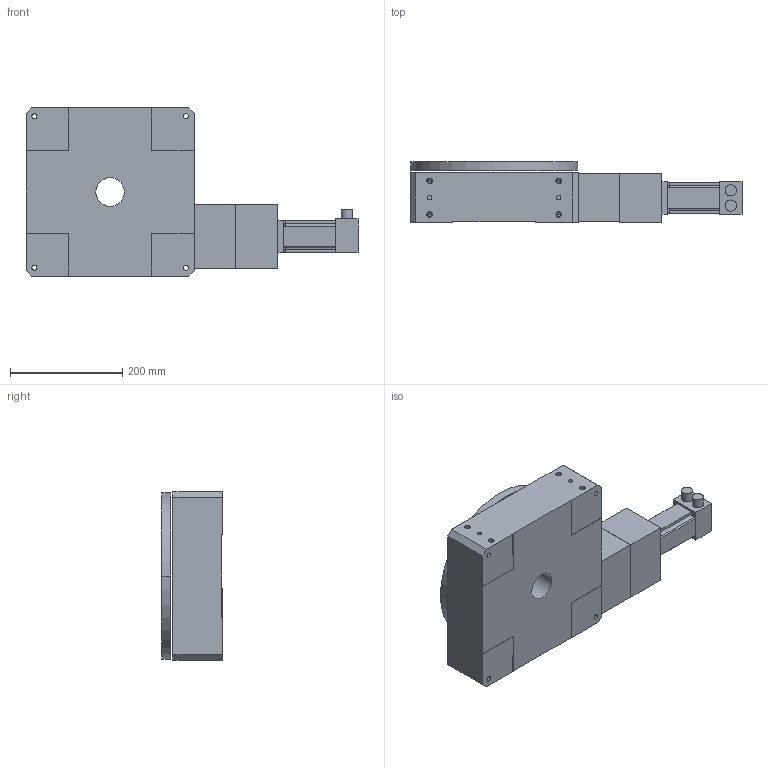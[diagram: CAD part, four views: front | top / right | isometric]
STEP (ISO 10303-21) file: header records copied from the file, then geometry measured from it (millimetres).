
FILE_DESCRIPTION((''),'2;1');
FILE_NAME('R300M9MP2E0_ASM','2009-07-02T',('FK20128'),(''),'PRO/ENGINEER BY PARAMETRIC TECHNOLOGY CORPORATION, 2006200','PRO/ENGINEER BY PARAMETRIC TECHNOLOGY CORPORATION, 2006200','');
FILE_SCHEMA(('CONFIG_CONTROL_DESIGN'));
Length unit declared in the file: millimetre
Products named in the file (4): R300M; R300M-M23; RXXXM-BE233; R300M9MP2E0_ASM
Assembly tree (3 placements, depth 2):
  R300M9MP2E0_ASM
    R300M
    R300M-M23
    RXXXM-BE233
Bounding box: 591.9 x 108.13 x 300 mm (x, y, z)
Volume: 10460403 mm3; surface area: 603327.7 mm2
Topology: 4 solids, 22 shells, 269 faces, 656 edges, 432 vertices
Faces by surface type: cylinder 144, plane 103, cone 22
Entity records: 8066 total; most frequent: DIRECTION 1522, CARTESIAN_POINT 1348, ORIENTED_EDGE 1200, EDGE_CURVE 636, AXIS2_PLACEMENT_3D 606, VERTEX_POINT 432, EDGE_LOOP 356, CIRCLE 326
